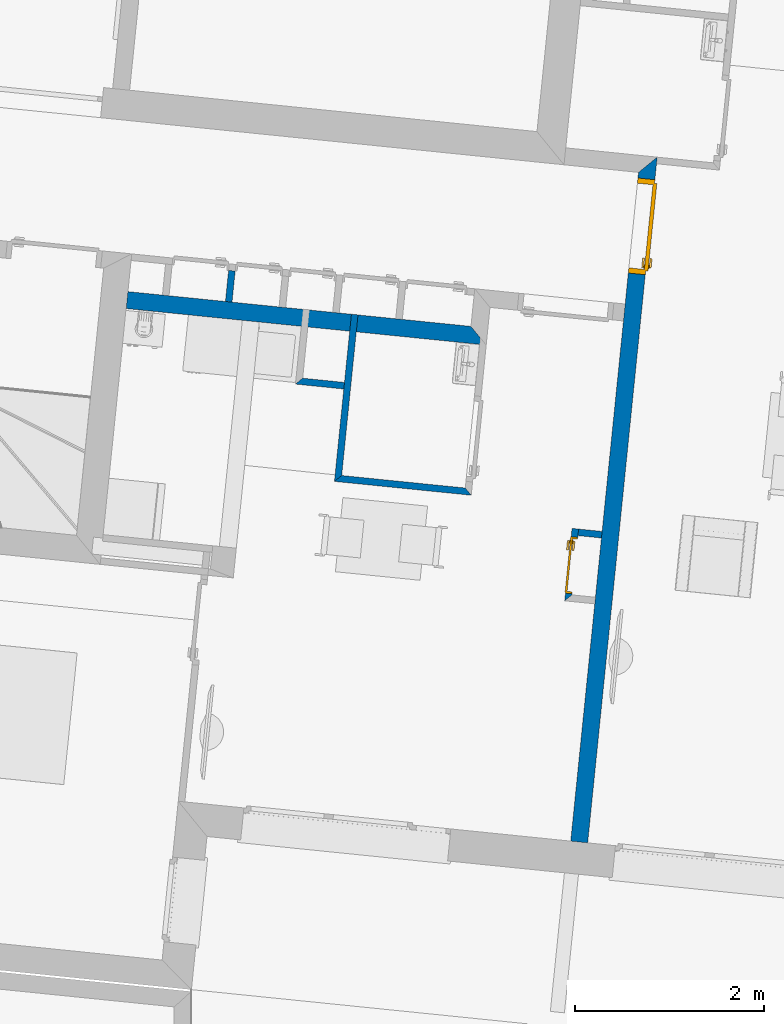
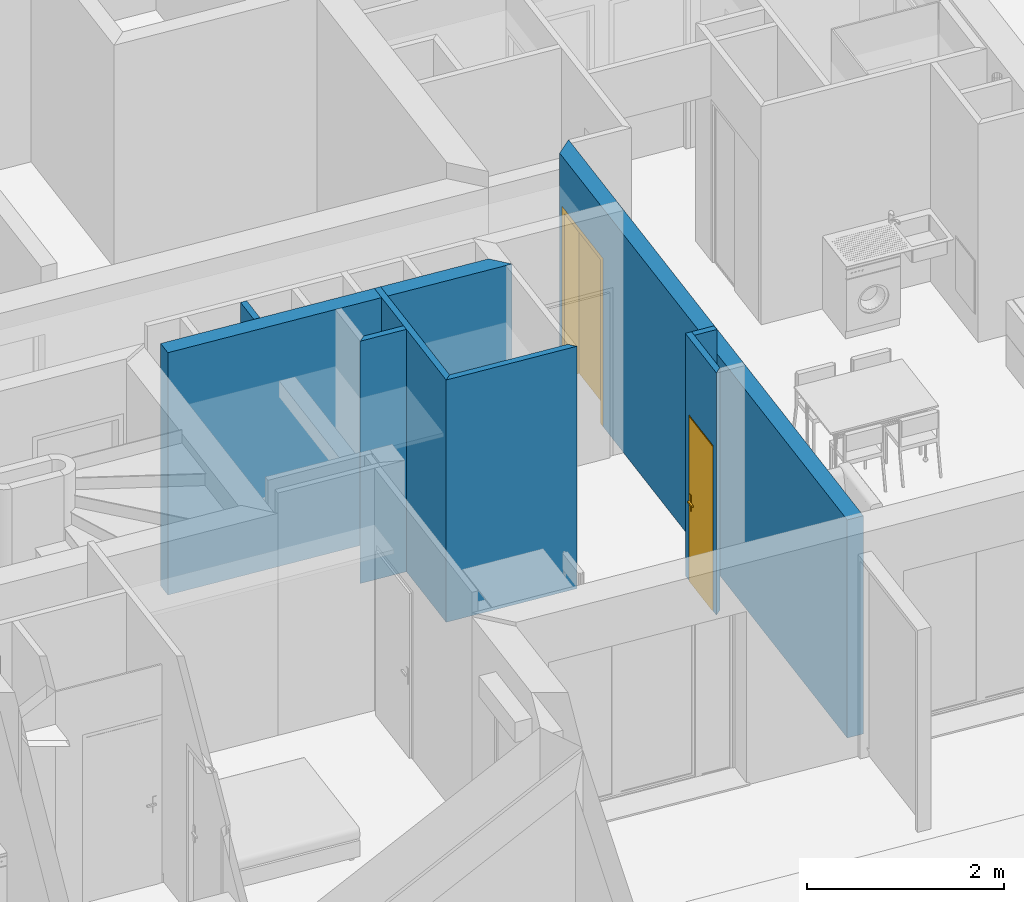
# One storey, part 73 of 171: 8 walls, 2 doors, 2 openings.
"""IFC2X3 building model written with IfcOpenShell, lengths in millimetres."""

from ifc_helpers import new_model, entity, si_unit, converted_unit, derived_unit, money_unit, direction, frame, origin_with_axes, origin_2d_with_axis, place, context, subcontext, project, spatial, polyline, rectangle, outline, extrude, faceted_brep, source, transform, mapped, material, layer, layer_set, layer_usage, type_object, element, fill, save


model = new_model("IFC2X3")

# Units and contexts
model_context = context("Model", 3, precision=0.01, world=origin_with_axes(), true_north=direction((0.0, 1.0)))
body_context = subcontext(model_context, "Body", "Model", "MODEL_VIEW")
ifc_project = project(units=[si_unit("LENGTHUNIT", "METRE", prefix="MILLI"), si_unit("AREAUNIT", "SQUARE_METRE"), si_unit("VOLUMEUNIT", "CUBIC_METRE"), converted_unit("PLANEANGLEUNIT", "DEGREE", entity("IfcPlaneAngleMeasure", 0.0174532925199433), si_unit("PLANEANGLEUNIT", "RADIAN"), dimensions=[0, 0, 0, 0, 0, 0, 0]), money_unit("USD"), converted_unit("TIMEUNIT", "Year", entity("IfcTimeMeasure", 31557600.0), si_unit("TIMEUNIT", "SECOND"), dimensions=[0, 0, 1, 0, 0, 0, 0]), si_unit("MASSUNIT", "GRAM", prefix="KILO"), si_unit("THERMODYNAMICTEMPERATUREUNIT", "DEGREE_CELSIUS"), si_unit("LUMINOUSINTENSITYUNIT", "LUMEN"), si_unit("ENERGYUNIT", "JOULE", prefix="MEGA"), derived_unit("THERMALCONDUCTANCEUNIT", [(si_unit("POWERUNIT", "WATT"), 1), (si_unit("LENGTHUNIT", "METRE"), -1), (si_unit("THERMODYNAMICTEMPERATUREUNIT", "KELVIN"), -1)]), derived_unit("SPECIFICHEATCAPACITYUNIT", [(si_unit("ENERGYUNIT", "JOULE"), 1), (si_unit("MASSUNIT", "GRAM", prefix="KILO"), -1), (si_unit("THERMODYNAMICTEMPERATUREUNIT", "KELVIN"), -1)]), derived_unit("MASSDENSITYUNIT", [(si_unit("MASSUNIT", "GRAM", prefix="KILO"), 1), (si_unit("VOLUMEUNIT", "CUBIC_METRE"), -1)])], contexts=[model_context])

# Site, building, storey
site_placement = place(None, origin_with_axes())
site = spatial("IfcSite", under=ifc_project, at=site_placement, Name="Site", CompositionType="ELEMENT")
building_placement = place(site_placement, origin_with_axes())
building = spatial("IfcBuilding", under=site, at=building_placement, Name="Bâtiment", CompositionType="ELEMENT")
storey_placement = place(building_placement, frame((0.0, 0.0, 3000.0), z_axis=(0.0, 0.0, 1.0), x_axis=(1.0, 0.0, 0.0)))
storey = spatial("IfcBuildingStorey", under=building, at=storey_placement, Name="rdc", CompositionType="ELEMENT", Elevation=3000.0)

# Wall
ifc_material_1 = material(Name="Parpaing 314940890")
ifc_layer_1 = layer(ifc_material_1, 180.0, ventilated="UNKNOWN")
ifc_layer_set_1 = layer_set([ifc_layer_1], Name="Beton  18 0018356637")
ifc_layer_usage_1 = layer_usage(ifc_layer_set_1, "AXIS2", "NEGATIVE", 0.0)
wall_type_1 = type_object("IfcWallType", Name="Beton  18 0018356637 180", PredefinedType="NOTDEFINED")
wall_1_placement = place(storey_placement, frame((2228705.246924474, -614601.5168538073, 0.0), z_axis=(0.0, 0.0, 1.0), x_axis=(0.994903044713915, -0.1008361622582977, 0.0)))
element("IfcWallStandardCase", 1, at=wall_1_placement, inside=storey, type_object=wall_type_1, material=ifc_layer_usage_1, Name="Mur-142", context=body_context, shape_type="SweptSolid", body=[
    extrude(outline(polyline([(279.9516923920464, -180.0000000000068), (4106.637243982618, -180.0000000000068), (3926.685555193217, 0.0), (280.0000100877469, 0.0), (279.9516923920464, -180.0000000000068)])), origin_with_axes(), (0.0, 0.0, 1.0), 3000.0),
])

# Wall, opening, door
ifc_layer_usage_2 = layer_usage(ifc_layer_set_1, "AXIS2", "NEGATIVE", 0.0)
wall_2_placement = place(storey_placement, frame((2234581.547925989, -613207.4686264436, 0.0), z_axis=(0.0, 0.0, 1.0), x_axis=(-0.1008361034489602, -0.9949030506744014, 0.0)))
wall_2 = element("IfcWallStandardCase", 2, at=wall_2_placement, inside=storey, type_object=wall_type_1, material=ifc_layer_usage_2, Name="Mur-142", context=body_context, shape_type="SweptSolid", body=[
    extrude(outline(polyline([(179.9516873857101, -179.99999999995), (7289.65066235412, -179.99999999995), (7289.6989906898, -1.13686837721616e-10), (0.0, 0.0), (179.9516873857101, -179.99999999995)])), origin_with_axes(), (0.0, 0.0, 1.0), 2700.0),
])
opening_1_placement = place(wall_2_placement, frame((745.1280166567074, 0.0, 0.0), z_axis=(0.0, 0.0, 1.0), x_axis=(1.0, 0.0, 0.0)))
opening_1 = element("IfcOpeningElement", 3, at=opening_1_placement, cuts=wall_2, Name="Por-279", context=body_context, shape_type="SweptSolid", body=[
    extrude(rectangle(XDim=1010.00001192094, YDim=2080.0, at=origin_2d_with_axis()), frame((-5.960473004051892e-06, -179.99999999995, 1040.0), z_axis=(0.0, -1.0, 0.0), x_axis=(-1.0, 0.0, 0.0)), (0.0, 0.0, -1.0), 360.0),
])
door_style = type_object("IfcDoorStyle", Name="Porte_1v", ConstructionType="NOTDEFINED", OperationType="NOTDEFINED", ParameterTakesPrecedence=False, Sizeable=False)
shared_shape_1 = source(origin_with_axes(), body_context, "Body", "Brep", [
    faceted_brep([(-504.9999999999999, 0.0, 0.0), (-504.9999999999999, 0.0, 2080.0), (504.9999999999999, 0.0, 2080.0), (504.9999999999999, 0.0, 0.0), (464.9999999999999, 0.0, 0.0), (464.9999999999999, 0.0, 2040.0), (-464.9999999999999, 0.0, 2040.0), (-464.9999999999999, 0.0, 0.0), (-504.9999999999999, -180.0, 0.0), (-504.9999999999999, -180.0, 2080.0), (504.9999999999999, -180.0, 2080.0), (504.9999999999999, -180.0, 0.0), (449.9999999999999, -180.0, 0.0), (449.9999999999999, -15.0, 0.0), (464.9999999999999, -15.0, 0.0), (464.9999999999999, -15.0, 2040.0), (-464.9999999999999, -15.0, 2040.0), (-464.9999999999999, -15.0, 0.0), (-449.9999999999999, -15.0, 0.0), (-449.9999999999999, -180.0, 0.0), (-449.9999999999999, -180.0, 2025.0), (449.9999999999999, -180.0, 2025.0), (449.9999999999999, -15.0, 2025.0), (-449.9999999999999, -15.0, 2025.0)], [[[0, 1, 2, 3, 4, 5, 6, 7]], [[8, 9, 1, 0]], [[9, 10, 2, 1]], [[10, 11, 3, 2]], [[3, 11, 12, 13, 14, 4]], [[5, 4, 14, 15]], [[6, 5, 15, 16]], [[7, 6, 16, 17]], [[0, 7, 17, 18, 19, 8]], [[19, 20, 21, 12, 11, 10, 9, 8]], [[22, 13, 12, 21]], [[17, 16, 15, 14, 13, 22, 23, 18]], [[18, 23, 20, 19]], [[23, 22, 21, 20]]]),
    faceted_brep([(399.9999999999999, -15.0, 900.0), (399.9999999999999, -15.0, 1100.0), (439.9999999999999, -15.0, 1100.0), (439.9999999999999, -15.0, 900.0), (399.9999999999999, -25.0, 900.0), (399.9999999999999, -25.0, 1100.0), (439.9999999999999, -25.0, 1100.0), (439.9999999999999, -25.0, 900.0)], [[[0, 1, 2, 3]], [[0, 4, 5, 1]], [[1, 5, 6, 2]], [[2, 6, 7, 3]], [[3, 7, 4, 0]], [[7, 6, 5, 4]]]),
    faceted_brep([(329.9999999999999, -25.0, 1000.0), (329.9999999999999, -25.0, 1020.0), (429.9999999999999, -25.0, 1020.0), (429.9999999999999, -25.0, 1000.0), (329.9999999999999, -44.99999999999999, 1000.0), (329.9999999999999, -44.99999999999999, 1020.0), (429.9999999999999, -44.99999999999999, 1020.0), (429.9999999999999, -44.99999999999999, 1000.0)], [[[0, 1, 2, 3]], [[0, 4, 5, 1]], [[1, 5, 6, 2]], [[2, 6, 7, 3]], [[3, 7, 4, 0]], [[7, 6, 5, 4]]]),
    faceted_brep([(399.9999999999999, 34.99999999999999, 900.0), (399.9999999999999, 34.99999999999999, 1100.0), (439.9999999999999, 34.99999999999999, 1100.0), (439.9999999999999, 34.99999999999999, 900.0), (399.9999999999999, 25.0, 900.0), (399.9999999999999, 25.0, 1100.0), (439.9999999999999, 25.0, 1100.0), (439.9999999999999, 25.0, 900.0)], [[[0, 1, 2, 3]], [[0, 4, 5, 1]], [[1, 5, 6, 2]], [[2, 6, 7, 3]], [[3, 7, 4, 0]], [[7, 6, 5, 4]]]),
    faceted_brep([(329.9999999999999, 55.0, 1000.0), (329.9999999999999, 55.0, 1020.0), (429.9999999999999, 55.0, 1020.0), (429.9999999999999, 55.0, 1000.0), (329.9999999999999, 34.99999999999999, 1000.0), (329.9999999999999, 34.99999999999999, 1020.0), (429.9999999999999, 34.99999999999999, 1020.0), (429.9999999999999, 34.99999999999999, 1000.0)], [[[0, 1, 2, 3]], [[0, 4, 5, 1]], [[1, 5, 6, 2]], [[2, 6, 7, 3]], [[3, 7, 4, 0]], [[7, 6, 5, 4]]]),
    faceted_brep([(464.9999999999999, 25.0, 0.0), (464.9999999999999, -15.0, 0.0), (-464.9999999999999, -15.0, 0.0), (-464.9999999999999, 25.0, 0.0), (464.9999999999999, 25.0, 2040.0), (464.9999999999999, -15.0, 2040.0), (-464.9999999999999, -15.0, 2040.0), (-464.9999999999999, 25.0, 2040.0)], [[[0, 1, 2, 3]], [[4, 5, 1, 0]], [[1, 5, 6, 2]], [[3, 2, 6, 7]], [[0, 3, 7, 4]], [[7, 6, 5, 4]]]),
])
door_1_placement = place(opening_1_placement, frame((-465.0000000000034, 0.0, 0.0), z_axis=(0.0, 0.0, 1.0), x_axis=(1.0, 0.0, 0.0)))
door_1 = element("IfcDoor", 4, at=door_1_placement, inside=storey, type_object=door_style, Name="Por-279", OverallHeight=2040.0, OverallWidth=930.0, context=body_context, shape_type="MappedRepresentation", body=[
    mapped(shared_shape_1, transform((464.9999999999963, 1.13686837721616e-10, 0.0))),
])
fill(opening_1, door_1)

# Walls
ifc_material_2 = material(Name="Hachure solide 268963992")
ifc_layer_2 = layer(ifc_material_2, 70.0, ventilated="UNKNOWN")
ifc_layer_set_2 = layer_set([ifc_layer_2], Name="Cloison 70 0826278243")
ifc_layer_usage_3 = layer_usage(ifc_layer_set_2, "AXIS2", "NEGATIVE", 0.0)
wall_type_2 = type_object("IfcWallType", Name="Cloison 70 0826278243 70", PredefinedType="NOTDEFINED")
wall_3_placement = place(storey_placement, frame((2230015.276291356, -614733.7454131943, 0.0), z_axis=(0.0, 0.0, 1.0), x_axis=(0.101103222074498, 0.9948759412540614, 0.0)))
element("IfcWallStandardCase", 5, at=wall_3_placement, inside=storey, type_object=wall_type_2, material=ifc_layer_usage_3, Name="Mur-121", context=body_context, shape_type="SweptSolid", body=[
    extrude(outline(polyline([(0.0, -70.00000000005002), (330.1208170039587, -69.99999999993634), (330.12081700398, 0.0), (0.0, 0.0), (0.0, -70.00000000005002)])), origin_with_axes(), (0.0, 0.0, 1.0), 3000.0),
])
ifc_layer_usage_4 = layer_usage(ifc_layer_set_2, "AXIS2", "NEGATIVE", 0.0)
wall_4_placement = place(storey_placement, frame((2231337.026163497, -615667.0256359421, 0.0), z_axis=(0.0, 0.0, 1.0), x_axis=(-0.9948733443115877, 0.1011287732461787, 0.0)))
element("IfcWallStandardCase", 6, at=wall_4_placement, inside=storey, type_object=wall_type_2, material=ifc_layer_usage_4, Name="Mur-121", context=body_context, shape_type="SweptSolid", body=[
    extrude(outline(polyline([(70.00000932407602, -69.99999999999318), (514.6687043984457, -70.00000000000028), (584.6275415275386, 0.0), (69.99999999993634, 0.0), (70.00000932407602, -69.99999999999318)])), origin_with_axes(), (0.0, 0.0, 1.0), 3000.0),
])
ifc_layer_usage_5 = layer_usage(ifc_layer_set_2, "AXIS2", "NEGATIVE", 70.0)
wall_5_placement = place(storey_placement, frame((2231244.763682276, -616574.6763650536, 0.0), z_axis=(0.0, 0.0, 1.0), x_axis=(0.1011286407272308, 0.9948733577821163, 0.0)))
element("IfcWallStandardCase", 7, at=wall_5_placement, inside=storey, type_object=wall_type_2, material=ifc_layer_usage_5, Name="Mur-148", context=body_context, shape_type="SweptSolid", body=[
    extrude(outline(polyline([(0.0, 0.0), (1708.128176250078, 0.0), (1708.128176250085, 70.00000000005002), (-70.03749248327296, 70.00000000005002), (0.0, 0.0)])), origin_with_axes(), (0.0, 0.0, 1.0), 3000.0),
])

# Wall, opening, door
ifc_layer_usage_6 = layer_usage(ifc_layer_set_2, "AXIS2", "NEGATIVE", 0.0)
wall_6_placement = place(storey_placement, frame((2233750.635914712, -617141.1380950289, 0.0), z_axis=(0.0, 0.0, 1.0), x_axis=(-0.1005375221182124, -0.9949332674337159, 0.0)))
wall_6 = element("IfcWallStandardCase", 8, at=wall_6_placement, inside=storey, type_object=wall_type_2, material=ifc_layer_usage_6, Name="Mur-153", context=body_context, shape_type="SweptSolid", body=[
    extrude(outline(polyline([(0.0, -70.00000000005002), (769.6332433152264, -69.99999999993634), (699.6332433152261, 0.0), (0.0, 0.0), (0.0, -70.00000000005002)])), origin_with_axes(), (0.0, 0.0, 1.0), 3000.0),
])
opening_2_placement = place(wall_6_placement, frame((388.1226217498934, 1.13686837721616e-10, 0.0), z_axis=(0.0, 0.0, 1.0), x_axis=(1.0, 0.0, 0.0)))
opening_2 = element("IfcOpeningElement", 9, at=opening_2_placement, cuts=wall_6, Name="Por-274", context=body_context, shape_type="SweptSolid", body=[
    extrude(rectangle(XDim=599.9999999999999, YDim=2050.0, at=origin_2d_with_axis()), frame((0.0, 70.00000000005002, 1025.0), z_axis=(0.0, 1.0, 0.0), x_axis=(1.0, 0.0, 0.0)), (0.0, 0.0, -1.0), 140.0),
])
shared_shape_2 = source(origin_with_axes(), body_context, "Body", "Brep", [
    faceted_brep([(-300.0, 0.0, 0.0), (-300.0, 0.0, 2050.0), (300.0, 0.0, 2050.0), (300.0, 0.0, 0.0), (290.0, 0.0, 0.0), (290.0, 0.0, 2040.0), (-290.0, 0.0, 2040.0), (-290.0, 0.0, 0.0), (-300.0, -70.0, 0.0), (-300.0, -70.0, 2050.0), (300.0, -70.0, 2050.0), (300.0, -70.0, 0.0), (279.9999999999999, -70.0, 0.0), (279.9999999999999, -15.0, 0.0), (290.0, -15.0, 0.0), (290.0, -15.0, 2040.0), (-290.0, -15.0, 2040.0), (-290.0, -15.0, 0.0), (-279.9999999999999, -15.0, 0.0), (-279.9999999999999, -70.0, 0.0), (-279.9999999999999, -70.0, 2030.0), (279.9999999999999, -70.0, 2030.0), (279.9999999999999, -15.0, 2030.0), (-279.9999999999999, -15.0, 2030.0)], [[[0, 1, 2, 3, 4, 5, 6, 7]], [[8, 9, 1, 0]], [[9, 10, 2, 1]], [[10, 11, 3, 2]], [[3, 11, 12, 13, 14, 4]], [[5, 4, 14, 15]], [[6, 5, 15, 16]], [[7, 6, 16, 17]], [[0, 7, 17, 18, 19, 8]], [[19, 20, 21, 12, 11, 10, 9, 8]], [[22, 13, 12, 21]], [[17, 16, 15, 14, 13, 22, 23, 18]], [[18, 23, 20, 19]], [[23, 22, 21, 20]]]),
    faceted_brep([(224.9999999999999, -15.0, 900.0), (224.9999999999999, -15.0, 1100.0), (264.9999999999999, -15.0, 1100.0), (264.9999999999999, -15.0, 900.0), (224.9999999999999, -25.0, 900.0), (224.9999999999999, -25.0, 1100.0), (264.9999999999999, -25.0, 1100.0), (264.9999999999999, -25.0, 900.0)], [[[0, 1, 2, 3]], [[0, 4, 5, 1]], [[1, 5, 6, 2]], [[2, 6, 7, 3]], [[3, 7, 4, 0]], [[7, 6, 5, 4]]]),
    faceted_brep([(154.9999999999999, -25.0, 1000.0), (154.9999999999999, -25.0, 1020.0), (254.9999999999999, -25.0, 1020.0), (254.9999999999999, -25.0, 1000.0), (154.9999999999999, -45.0, 1000.0), (154.9999999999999, -45.0, 1020.0), (254.9999999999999, -45.0, 1020.0), (254.9999999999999, -45.0, 1000.0)], [[[0, 1, 2, 3]], [[0, 4, 5, 1]], [[1, 5, 6, 2]], [[2, 6, 7, 3]], [[3, 7, 4, 0]], [[7, 6, 5, 4]]]),
    faceted_brep([(224.9999999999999, 15.0, 900.0), (224.9999999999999, 15.0, 1100.0), (264.9999999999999, 15.0, 1100.0), (264.9999999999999, 15.0, 900.0), (224.9999999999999, 5.000000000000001, 900.0), (224.9999999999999, 5.000000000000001, 1100.0), (264.9999999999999, 5.000000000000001, 1100.0), (264.9999999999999, 5.000000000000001, 900.0)], [[[0, 1, 2, 3]], [[0, 4, 5, 1]], [[1, 5, 6, 2]], [[2, 6, 7, 3]], [[3, 7, 4, 0]], [[7, 6, 5, 4]]]),
    faceted_brep([(154.9999999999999, 35.0, 1000.0), (154.9999999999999, 35.0, 1020.0), (254.9999999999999, 35.0, 1020.0), (254.9999999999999, 35.0, 1000.0), (154.9999999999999, 15.0, 1000.0), (154.9999999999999, 15.0, 1020.0), (254.9999999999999, 15.0, 1020.0), (254.9999999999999, 15.0, 1000.0)], [[[0, 1, 2, 3]], [[0, 4, 5, 1]], [[1, 5, 6, 2]], [[2, 6, 7, 3]], [[3, 7, 4, 0]], [[7, 6, 5, 4]]]),
    faceted_brep([(290.0, 5.000000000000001, 0.0), (290.0, -15.0, 0.0), (-290.0, -15.0, 0.0), (-290.0, 5.000000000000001, 0.0), (290.0, 5.000000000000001, 2040.0), (290.0, -15.0, 2040.0), (-290.0, -15.0, 2040.0), (-290.0, 5.000000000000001, 2040.0)], [[[0, 1, 2, 3]], [[4, 5, 1, 0]], [[1, 5, 6, 2]], [[3, 2, 6, 7]], [[0, 3, 7, 4]], [[7, 6, 5, 4]]]),
])
door_2_placement = place(opening_2_placement, frame((289.9999999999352, 3.410605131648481e-10, 0.0), z_axis=(0.0, 0.0, 1.0), x_axis=(-1.0, 0.0, 0.0)))
door_2 = element("IfcDoor", 10, at=door_2_placement, inside=storey, type_object=door_style, Name="Por-274", OverallHeight=2040.0, OverallWidth=580.0, context=body_context, shape_type="MappedRepresentation", body=[
    mapped(shared_shape_2, transform((289.9999999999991, 70.00000000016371, 0.0))),
])
fill(opening_2, door_2)

# Walls
ifc_layer_usage_7 = layer_usage(ifc_layer_set_2, "AXIS2", "NEGATIVE", 0.0)
wall_7_placement = place(storey_placement, frame((2234171.419598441, -617254.0145587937, 0.0), z_axis=(0.0, 0.0, 1.0), x_axis=(-0.994933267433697, 0.1005375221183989, 0.0)))
element("IfcWallStandardCase", 11, at=wall_7_placement, inside=storey, type_object=wall_type_2, material=ifc_layer_usage_7, Name="Mur-153", context=body_context, shape_type="SweptSolid", body=[
    extrude(outline(polyline([(179.9790006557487, -69.99999999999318), (430.0000053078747, -69.99999999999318), (430.0000053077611, 0.0), (180.0000081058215, 0.0), (179.9790006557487, -69.99999999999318)])), origin_with_axes(), (0.0, 0.0, 1.0), 3000.0),
])
ifc_material_3 = material(Name="Hachure solide 269229667")
ifc_layer_3 = layer(ifc_material_3, 70.0, ventilated="UNKNOWN")
ifc_layer_set_3 = layer_set([ifc_layer_3], Name="Cloison 70 0836576958")
ifc_layer_usage_8 = layer_usage(ifc_layer_set_3, "AXIS2", "NEGATIVE", 0.0)
wall_type_3 = type_object("IfcWallType", Name="Cloison 70 0836576958 70", PredefinedType="NOTDEFINED")
wall_8_placement = place(storey_placement, frame((2231244.763682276, -616574.6763650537, 0.0), z_axis=(0.0, 0.0, 1.0), x_axis=(0.9949273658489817, -0.1005959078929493, 0.0)))
element("IfcWallStandardCase", 12, at=wall_8_placement, inside=storey, type_object=wall_type_3, material=ifc_layer_usage_8, Name="Mur-148", context=body_context, shape_type="SweptSolid", body=[
    extrude(outline(polyline([(-70.03749248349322, -70.0000000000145), (1384.012241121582, -70.00000000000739), (1313.913733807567, 0.0), (0.0, 0.0), (-70.03749248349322, -70.0000000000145)])), origin_with_axes(), (0.0, 0.0, 1.0), 3000.0),
])

save(model, "model.ifc")
